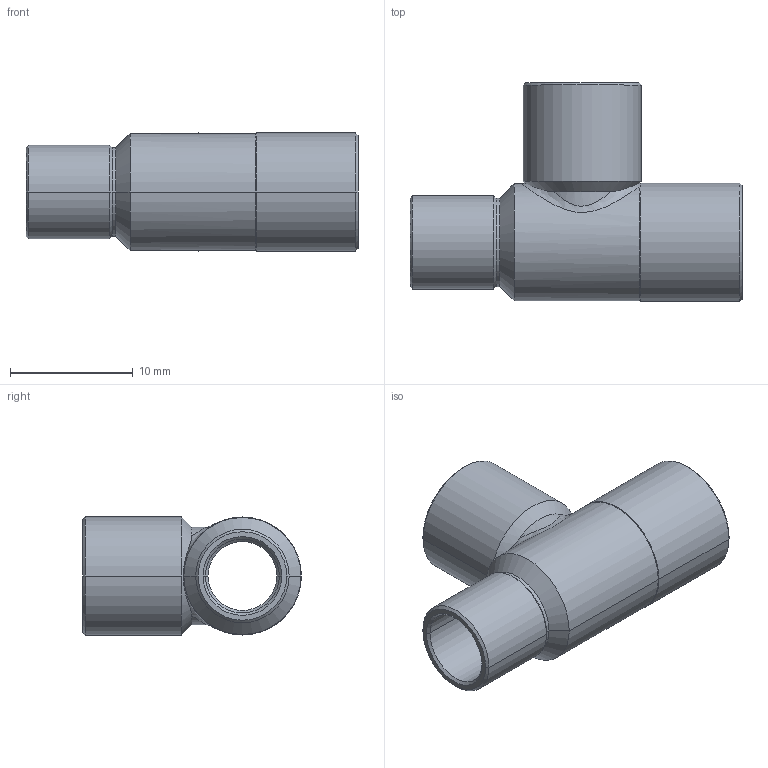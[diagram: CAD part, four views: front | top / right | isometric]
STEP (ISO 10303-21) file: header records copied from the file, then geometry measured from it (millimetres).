
FILE_DESCRIPTION((''),'2;1');
FILE_NAME('P:\Bouwmaten\z-maattekeningen 3D\5000\5130\5130886.stp','2005-10-26T11:52:15',('Kris'),(''),'Autodesk Inventor 8','Autodesk Inventor 8','');
FILE_SCHEMA(('AUTOMOTIVE_DESIGN { 1 0 10303 214 1 1 1 1 }'));
Length unit declared in the file: millimetre
Products named in the file (1): 5130886
Bounding box: 27 x 17.8 x 9.6 mm (x, y, z)
Volume: 726.7 mm3; surface area: 1891.5 mm2
Topology: 1 solids, 1 shells, 61 faces, 136 edges, 76 vertices
Faces by surface type: cone 30, cylinder 26, plane 3, bspline 2
Entity records: 2163 total; most frequent: CARTESIAN_POINT 795, DIRECTION 294, ORIENTED_EDGE 272, EDGE_CURVE 136, AXIS2_PLACEMENT_3D 121, VERTEX_POINT 76, EDGE_LOOP 64, CIRCLE 61
